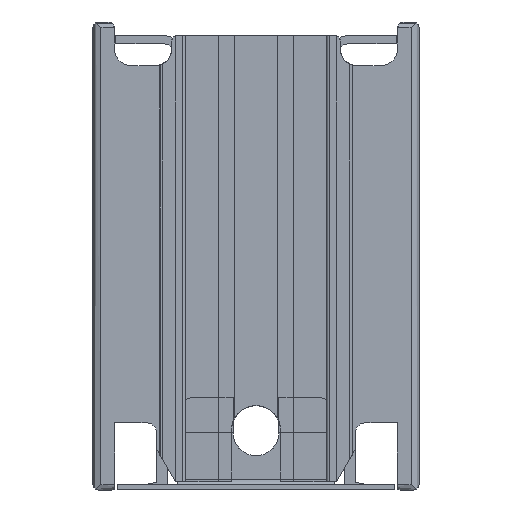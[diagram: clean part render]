
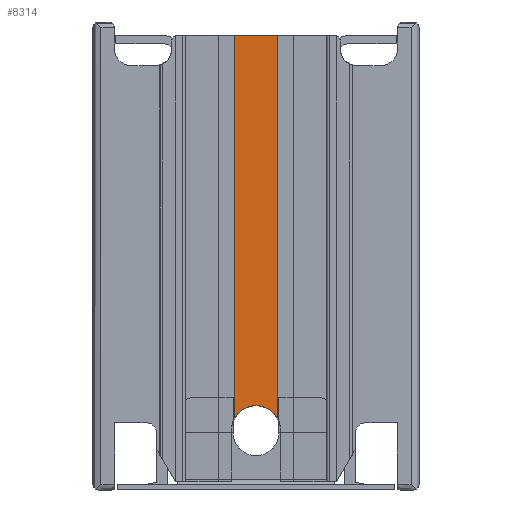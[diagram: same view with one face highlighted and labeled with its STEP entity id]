
A CAD part, front view. The second image highlights one B-rep face of the part: STEP entity #8314.
In plain terms, the highlighted planar face has unit normal (0, -1, 0).
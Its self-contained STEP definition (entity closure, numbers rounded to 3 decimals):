
#102 = ORIENTED_EDGE ( 'NONE', *, *, #6935, .F. ) ;
#446 = ORIENTED_EDGE ( 'NONE', *, *, #8622, .F. ) ;
#762 = CARTESIAN_POINT ( 'NONE',  ( 3335.1, -6315.7, 370.891 ) ) ;
#915 = DIRECTION ( 'NONE',  ( 0., -1., 0. ) ) ;
#1119 = EDGE_CURVE ( 'NONE', #8298, #14470, #3524, .T. ) ;
#1431 = LINE ( 'NONE', #5910, #4036 ) ;
#1530 = CARTESIAN_POINT ( 'NONE',  ( 3342.9, -6315.7, 370.891 ) ) ;
#3441 = EDGE_CURVE ( 'NONE', #3617, #13504, #11520, .T. ) ;
#3524 = CIRCLE ( 'NONE', #11754, 4.5 ) ;
#3617 = VERTEX_POINT ( 'NONE', #5210 ) ;
#3827 = CIRCLE ( 'NONE', #5917, 4.5 ) ;
#3964 = CARTESIAN_POINT ( 'NONE',  ( 3342.9, -6315.7, 443.646 ) ) ;
#4036 = VECTOR ( 'NONE', #10398, 1000. ) ;
#5210 = CARTESIAN_POINT ( 'NONE',  ( 3335.1, -6315.7, 441.146 ) ) ;
#5910 = CARTESIAN_POINT ( 'NONE',  ( 3311.35, -6315.7, 441.146 ) ) ;
#5917 = AXIS2_PLACEMENT_3D ( 'NONE', #11692, #12507, #13836 ) ;
#5954 = VERTEX_POINT ( 'NONE', #7571 ) ;
#6074 = FACE_OUTER_BOUND ( 'NONE', #10323, .T. ) ;
#6278 = CARTESIAN_POINT ( 'NONE',  ( 3339., -6315.7, 368.646 ) ) ;
#6935 = EDGE_CURVE ( 'NONE', #14470, #13504, #3827, .T. ) ;
#6963 = CARTESIAN_POINT ( 'NONE',  ( 3335.1, -6315.7, 443.646 ) ) ;
#7124 = DIRECTION ( 'NONE',  ( 0., 0., -1. ) ) ;
#7571 = CARTESIAN_POINT ( 'NONE',  ( 3342.9, -6315.7, 441.146 ) ) ;
#7931 = ORIENTED_EDGE ( 'NONE', *, *, #1119, .F. ) ;
#8298 = VERTEX_POINT ( 'NONE', #1530 ) ;
#8314 = ADVANCED_FACE ( 'NONE', ( #6074 ), #11970, .T. ) ;
#8622 = EDGE_CURVE ( 'NONE', #3617, #5954, #1431, .T. ) ;
#8705 = DIRECTION ( 'NONE',  ( 0., 0., -1. ) ) ;
#9138 = VECTOR ( 'NONE', #7124, 1000. ) ;
#9339 = EDGE_CURVE ( 'NONE', #5954, #8298, #10336, .T. ) ;
#9537 = CARTESIAN_POINT ( 'NONE',  ( 3311.35, -6315.7, 443.646 ) ) ;
#9671 = VECTOR ( 'NONE', #13975, 1000. ) ;
#9761 = DIRECTION ( 'NONE',  ( 0., 0., -1. ) ) ;
#10323 = EDGE_LOOP ( 'NONE', ( #7931, #14189, #446, #13466, #102 ) ) ;
#10336 = LINE ( 'NONE', #3964, #9671 ) ;
#10398 = DIRECTION ( 'NONE',  ( 1., 0., 0. ) ) ;
#11520 = LINE ( 'NONE', #6963, #9138 ) ;
#11692 = CARTESIAN_POINT ( 'NONE',  ( 3339., -6315.7, 368.646 ) ) ;
#11754 = AXIS2_PLACEMENT_3D ( 'NONE', #6278, #915, #8705 ) ;
#11970 = PLANE ( 'NONE',  #12007 ) ;
#12007 = AXIS2_PLACEMENT_3D ( 'NONE', #9537, #13156, #9761 ) ;
#12507 = DIRECTION ( 'NONE',  ( 0., -1., 0. ) ) ;
#13156 = DIRECTION ( 'NONE',  ( 0., -1., 0. ) ) ;
#13466 = ORIENTED_EDGE ( 'NONE', *, *, #3441, .T. ) ;
#13504 = VERTEX_POINT ( 'NONE', #762 ) ;
#13836 = DIRECTION ( 'NONE',  ( 0., 0., -1. ) ) ;
#13975 = DIRECTION ( 'NONE',  ( 0., 0., -1. ) ) ;
#14007 = CARTESIAN_POINT ( 'NONE',  ( 3339., -6315.7, 373.146 ) ) ;
#14189 = ORIENTED_EDGE ( 'NONE', *, *, #9339, .F. ) ;
#14470 = VERTEX_POINT ( 'NONE', #14007 ) ;
